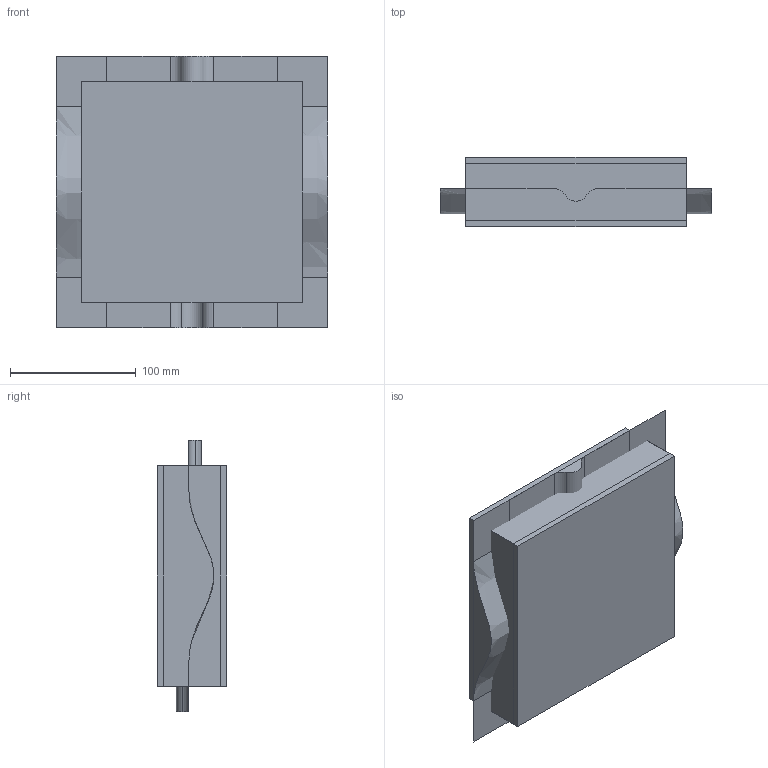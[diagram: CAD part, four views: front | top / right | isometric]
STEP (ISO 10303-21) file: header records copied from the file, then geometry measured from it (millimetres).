
FILE_DESCRIPTION(('CATIA V5 STEP Exchange'),'2;1');
FILE_NAME('C:\_Andres\UNIVERSIDAD\IQS\ASIGNATURAS\DAO\EXF\EXF-16172c\2inicio\Villarroya_Marquina_Ej02_v36.stp','2017-03-05T15:45:43+00:00',('none'),('none'),'CATIA Version 5-6 Release 2014 SP1 HF18','CATIA V5 STEP AP203','none');
FILE_SCHEMA(('CONFIG_CONTROL_DESIGN'));
Length unit declared in the file: millimetre
Products named in the file (1): Villarroya_Marquina_Ej02_v36
Bounding box: 216 x 55 x 216 mm (x, y, z)
Surface area: 305183.9 mm2
Topology: 3 solids, 10 shells, 72 faces, 205 edges, 150 vertices
Faces by surface type: bspline 32, plane 32, cylinder 6, extrusion 2
Entity records: 5750 total; most frequent: CARTESIAN_POINT 4433, ORIENTED_EDGE 288, DIRECTION 151, EDGE_CURVE 132, VERTEX_POINT 84, VECTOR 77, LINE 75, ADVANCED_FACE 72
